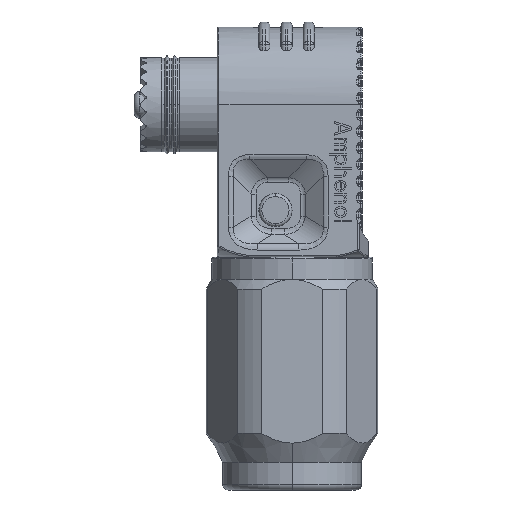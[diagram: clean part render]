
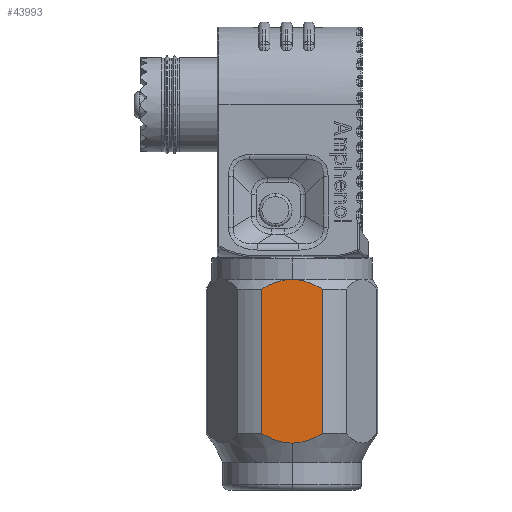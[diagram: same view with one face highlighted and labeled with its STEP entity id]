
A CAD part, front view. The second image highlights one B-rep face of the part: STEP entity #43993.
In plain terms, the highlighted planar face has unit normal (0, -1, 0).
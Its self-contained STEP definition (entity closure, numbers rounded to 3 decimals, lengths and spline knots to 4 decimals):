
#5931=CARTESIAN_POINT('',(0.8268,-0.4449,
-1.3662));
#5932=CARTESIAN_POINT('',(0.8184,-0.4449,
-1.3662));
#5933=CARTESIAN_POINT('',(0.8015,-0.4449,
-1.3668));
#5934=CARTESIAN_POINT('',(0.7761,-0.4449,
-1.3697));
#5935=CARTESIAN_POINT('',(0.7504,-0.4449,
-1.3746));
#5936=CARTESIAN_POINT('',(0.7243,-0.4449,
-1.3816));
#5937=CARTESIAN_POINT('',(0.6975,-0.4449,
-1.3908));
#5938=CARTESIAN_POINT('',(0.6699,-0.4449,
-1.4024));
#5939=CARTESIAN_POINT('',(0.6413,-0.4449,
-1.4167));
#5940=CARTESIAN_POINT('',(0.6213,-0.4449,
-1.4281));
#5941=CARTESIAN_POINT('',(0.6111,-0.4449,
-1.4343));
#5968=CARTESIAN_POINT('',(0.6111,-0.4449,
-2.4608));
#5969=CARTESIAN_POINT('',(0.6213,-0.4449,
-2.467));
#5970=CARTESIAN_POINT('',(0.6413,-0.4449,
-2.4785));
#5971=CARTESIAN_POINT('',(0.6699,-0.4449,
-2.4927));
#5972=CARTESIAN_POINT('',(0.6975,-0.4449,
-2.5043));
#5973=CARTESIAN_POINT('',(0.7243,-0.4449,
-2.5135));
#5974=CARTESIAN_POINT('',(0.7504,-0.4449,
-2.5205));
#5975=CARTESIAN_POINT('',(0.7761,-0.4449,
-2.5254));
#5976=CARTESIAN_POINT('',(0.8015,-0.4449,
-2.5283));
#5977=CARTESIAN_POINT('',(0.8184,-0.4449,
-2.529));
#5978=CARTESIAN_POINT('',(0.8268,-0.4449,
-2.529));
#6004=DIRECTION('',(0.,0.,1.));
#6005=VECTOR('',#6004,1.0264);
#6006=CARTESIAN_POINT('',(0.6111,-0.4449,
-2.4608));
#6007=LINE('',#6006,#6005);
#6025=CARTESIAN_POINT('',(0.8268,-0.4449,
-2.529));
#6026=CARTESIAN_POINT('',(0.8352,-0.4449,
-2.529));
#6027=CARTESIAN_POINT('',(0.852,-0.4449,
-2.5283));
#6028=CARTESIAN_POINT('',(0.8774,-0.4449,
-2.5254));
#6029=CARTESIAN_POINT('',(0.9031,-0.4449,
-2.5205));
#6030=CARTESIAN_POINT('',(0.9293,-0.4449,
-2.5135));
#6031=CARTESIAN_POINT('',(0.956,-0.4449,
-2.5043));
#6032=CARTESIAN_POINT('',(0.9836,-0.4449,
-2.4927));
#6033=CARTESIAN_POINT('',(1.0123,-0.4449,
-2.4785));
#6034=CARTESIAN_POINT('',(1.0322,-0.4449,
-2.467));
#6035=CARTESIAN_POINT('',(1.0424,-0.4449,
-2.4608));
#6112=DIRECTION('',(0.,0.,1.));
#6113=VECTOR('',#6112,1.0264);
#6114=CARTESIAN_POINT('',(1.0424,-0.4449,
-2.4608));
#6115=LINE('',#6114,#6113);
#6133=CARTESIAN_POINT('',(1.0424,-0.4449,
-1.4343));
#6134=CARTESIAN_POINT('',(1.0322,-0.4449,
-1.4281));
#6135=CARTESIAN_POINT('',(1.0123,-0.4449,
-1.4167));
#6136=CARTESIAN_POINT('',(0.9836,-0.4449,
-1.4024));
#6137=CARTESIAN_POINT('',(0.956,-0.4449,
-1.3908));
#6138=CARTESIAN_POINT('',(0.9293,-0.4449,
-1.3816));
#6139=CARTESIAN_POINT('',(0.9031,-0.4449,
-1.3746));
#6140=CARTESIAN_POINT('',(0.8774,-0.4449,
-1.3697));
#6141=CARTESIAN_POINT('',(0.852,-0.4449,
-1.3668));
#6142=CARTESIAN_POINT('',(0.8352,-0.4449,
-1.3662));
#6143=CARTESIAN_POINT('',(0.8268,-0.4449,
-1.3662));
#37414=CARTESIAN_POINT('',(1.0424,-0.4449,
-2.4608));
#37415=CARTESIAN_POINT('',(1.0424,-0.4449,
-1.4343));
#37416=VERTEX_POINT('',#37414);
#37417=VERTEX_POINT('',#37415);
#37418=CARTESIAN_POINT('',(0.6111,-0.4449,
-2.4608));
#37419=CARTESIAN_POINT('',(0.6111,-0.4449,
-1.4343));
#37420=VERTEX_POINT('',#37418);
#37421=VERTEX_POINT('',#37419);
#37422=VERTEX_POINT('',#6143);
#37423=VERTEX_POINT('',#6025);
#43977=CARTESIAN_POINT('',(1.0424,-0.4449,
-1.2087));
#43978=DIRECTION('',(0.,1.,0.));
#43979=DIRECTION('',(-1.,0.,0.));
#43980=AXIS2_PLACEMENT_3D('',#43977,#43978,#43979);
#43981=PLANE('',#43980);
#43983=ORIENTED_EDGE('',*,*,#43982,.F.);
#43984=ORIENTED_EDGE('',*,*,#43945,.F.);
#43985=ORIENTED_EDGE('',*,*,#43971,.T.);
#43986=ORIENTED_EDGE('',*,*,#43913,.F.);
#43988=ORIENTED_EDGE('',*,*,#43987,.F.);
#43990=ORIENTED_EDGE('',*,*,#43989,.F.);
#43991=EDGE_LOOP('',(#43983,#43984,#43985,#43986,#43988,#43990));
#43992=FACE_OUTER_BOUND('',#43991,.F.);
#43993=ADVANCED_FACE('',(#43992),#43981,.F.);
#5942=B_SPLINE_CURVE_WITH_KNOTS('',3,(#5931,#5932,#5933,#5934,#5935,#5936,#5937,
#5938,#5939,#5940,#5941),.UNSPECIFIED.,.F.,.F.,(4,1,1,1,1,1,1,1,4),(0.,
0.125,0.25,0.375,0.5,0.625,0.75,0.875,1.),.UNSPECIFIED.);
#5979=B_SPLINE_CURVE_WITH_KNOTS('',3,(#5968,#5969,#5970,#5971,#5972,#5973,#5974,
#5975,#5976,#5977,#5978),.UNSPECIFIED.,.F.,.F.,(4,1,1,1,1,1,1,1,4),(0.,
0.125,0.25,0.375,0.5,0.625,0.75,0.875,1.),.UNSPECIFIED.);
#6036=B_SPLINE_CURVE_WITH_KNOTS('',3,(#6025,#6026,#6027,#6028,#6029,#6030,#6031,
#6032,#6033,#6034,#6035),.UNSPECIFIED.,.F.,.F.,(4,1,1,1,1,1,1,1,4),(0.,
0.125,0.25,0.375,0.5,0.625,0.75,0.875,1.),.UNSPECIFIED.);
#6144=B_SPLINE_CURVE_WITH_KNOTS('',3,(#6133,#6134,#6135,#6136,#6137,#6138,#6139,
#6140,#6141,#6142,#6143),.UNSPECIFIED.,.F.,.F.,(4,1,1,1,1,1,1,1,4),(0.,
0.125,0.25,0.375,0.5,0.625,0.75,0.875,1.),.UNSPECIFIED.);
#43913=EDGE_CURVE('',#37422,#37421,#5942,.T.);
#43945=EDGE_CURVE('',#37420,#37423,#5979,.T.);
#43971=EDGE_CURVE('',#37420,#37421,#6007,.T.);
#43982=EDGE_CURVE('',#37423,#37416,#6036,.T.);
#43987=EDGE_CURVE('',#37417,#37422,#6144,.T.);
#43989=EDGE_CURVE('',#37416,#37417,#6115,.T.);
